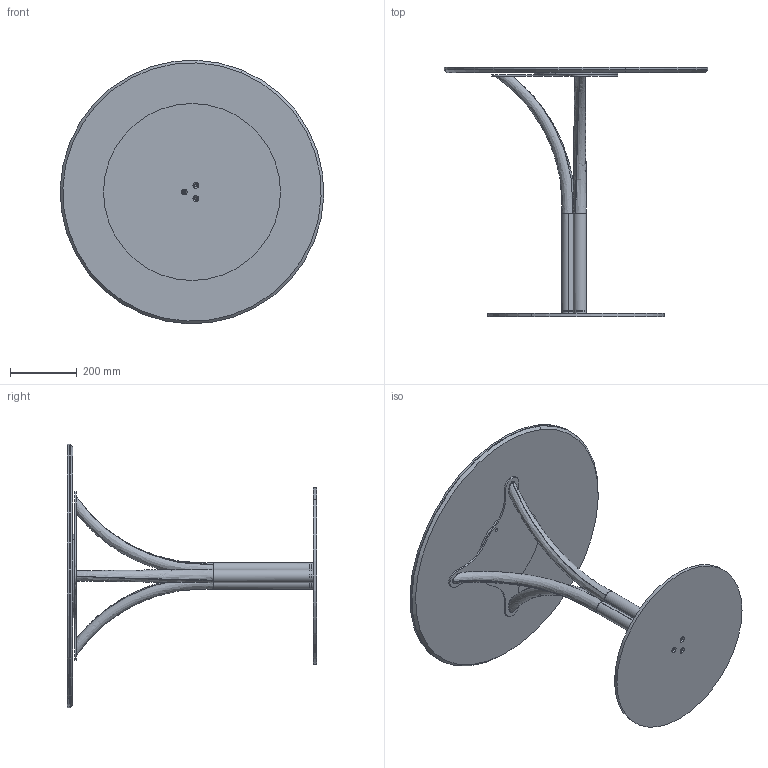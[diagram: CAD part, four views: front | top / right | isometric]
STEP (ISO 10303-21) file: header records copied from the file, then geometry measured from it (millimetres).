
FILE_DESCRIPTION (( 'STEP AP203' ), '1' );
FILE_NAME ('DB12C.STEP', '2024-08-08T08:13:04', ( '' ), ( '' ), 'SwSTEP 2.0', 'SolidWorks 2022', '' );
FILE_SCHEMA (( 'CONFIG_CONTROL_DESIGN' ));
Length unit declared in the file: millimetre
Products named in the file (8): P0000003-00-STAFFA DI FISSAGGIO DIAMETRO 250_P0000003-250mm normale; DB12C; DOD000000_02-00-Gamba curvata per DODO''_Default<A macchina>; DOD000000-01-DODO BASE ; KXXCXX-00-Piani Rotondi in ceramica CON PIASTRA_K12P PIANO CERAMICA D.79cm; K1XCMXX-00-Piani Rotondi in ceramica_D.790; CBS000000BAS-00-BISTRO PIASTRA INFERIORE_D.530; DOD000000_01-01-poggiapiano
Assembly tree (9 placements, depth 3):
  DB12C
    CBS000000BAS-00-BISTRO PIASTRA INFERIORE_D.530
    DOD000000-01-DODO BASE 
      DOD000000_02-00-Gamba curvata per DODO''_Default<A macchina>  x3
      DOD000000_01-01-poggiapiano
    KXXCXX-00-Piani Rotondi in ceramica CON PIASTRA_K12P PIANO CERAMICA D.79cm
      K1XCMXX-00-Piani Rotondi in ceramica_D.790
      P0000003-00-STAFFA DI FISSAGGIO DIAMETRO 250_P0000003-250mm normale
Bounding box: 789.44 x 747 x 789.44 mm (x, y, z)
Volume: 11152769.7 mm3; surface area: 3226886.4 mm2
Topology: 11 solids, 11 shells, 113 faces, 265 edges, 174 vertices
Faces by surface type: cylinder 65, plane 28, bspline 12, cone 8
Entity records: 6607 total; most frequent: CARTESIAN_POINT 3714, DIRECTION 461, ORIENTED_EDGE 386, AXIS2_PLACEMENT_3D 193, EDGE_CURVE 193, VERTEX_POINT 126, EDGE_LOOP 105, CIRCLE 102
